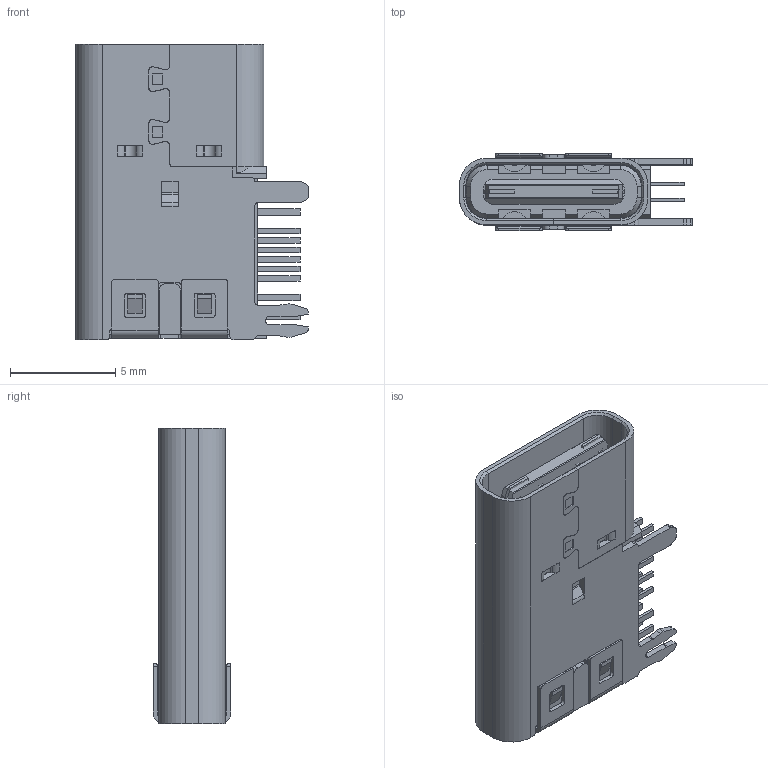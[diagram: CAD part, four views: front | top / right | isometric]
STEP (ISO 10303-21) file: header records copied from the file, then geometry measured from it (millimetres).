
FILE_DESCRIPTION (( 'STEP AP203' ), '1' );
FILE_NAME ('U5080-14PNYXXD14.0L.STEP', '2026-09-21T03:05:01', ( '' ), ( '' ), 'SwSTEP 2.0', 'SolidWorks 2024', '' );
FILE_SCHEMA (( 'CONFIG_CONTROL_DESIGN' ));
Length unit declared in the file: millimetre
Products named in the file (2): 2026090104; U5080-14PNYXXD14.0L
Assembly tree (1 placements, depth 2):
  U5080-14PNYXXD14.0L
    2026090104
Bounding box: 11.05 x 3.66 x 14 mm (x, y, z)
Surface area: 1765.6 mm2 (no closed solid volume)
Topology: 0 solids, 20 shells, 1658 faces, 4830 edges, 3184 vertices
Faces by surface type: plane 1203, cylinder 418, bspline 37
Entity records: 55104 total; most frequent: CARTESIAN_POINT 10691, ORIENTED_EDGE 9424, DIRECTION 8809, EDGE_CURVE 4826, LINE 3799, VECTOR 3799, VERTEX_POINT 3184, AXIS2_PLACEMENT_3D 2505
